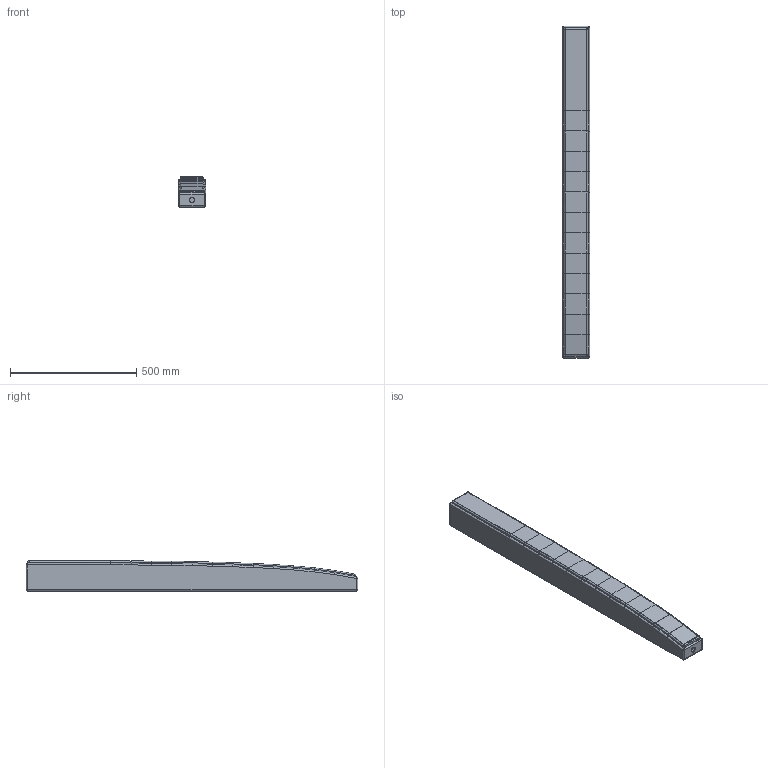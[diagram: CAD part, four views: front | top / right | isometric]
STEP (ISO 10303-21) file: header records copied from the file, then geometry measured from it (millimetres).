
FILE_DESCRIPTION (( 'STEP AP203' ), '1' );
FILE_NAME ('SEEBURG_L16j.STEP', '2012-09-26T06:31:49', ( 'Fabian' ), ( '' ), 'SwSTEP 2.0', 'SolidWorks 2009', '' );
FILE_SCHEMA (( 'CONFIG_CONTROL_DESIGN' ));
Length unit declared in the file: millimetre
Products named in the file (3): L16j_Gehäuse_Internet; L16j_Stoffrahmen_Internet; SEEBURG_L16j
Assembly tree (2 placements, depth 2):
  SEEBURG_L16j
    L16j_Gehäuse_Internet
    L16j_Stoffrahmen_Internet
Bounding box: 108 x 1313.81 x 120 mm (x, y, z)
Volume: 4814240.5 mm3; surface area: 1246124 mm2
Topology: 3 solids, 3 shells, 241 faces, 641 edges, 392 vertices
Faces by surface type: plane 125, cylinder 86, cone 18, sphere 12
Entity records: 7564 total; most frequent: CARTESIAN_POINT 1411, ORIENTED_EDGE 1258, DIRECTION 1167, EDGE_CURVE 629, VECTOR 487, LINE 487, VERTEX_POINT 392, AXIS2_PLACEMENT_3D 340
